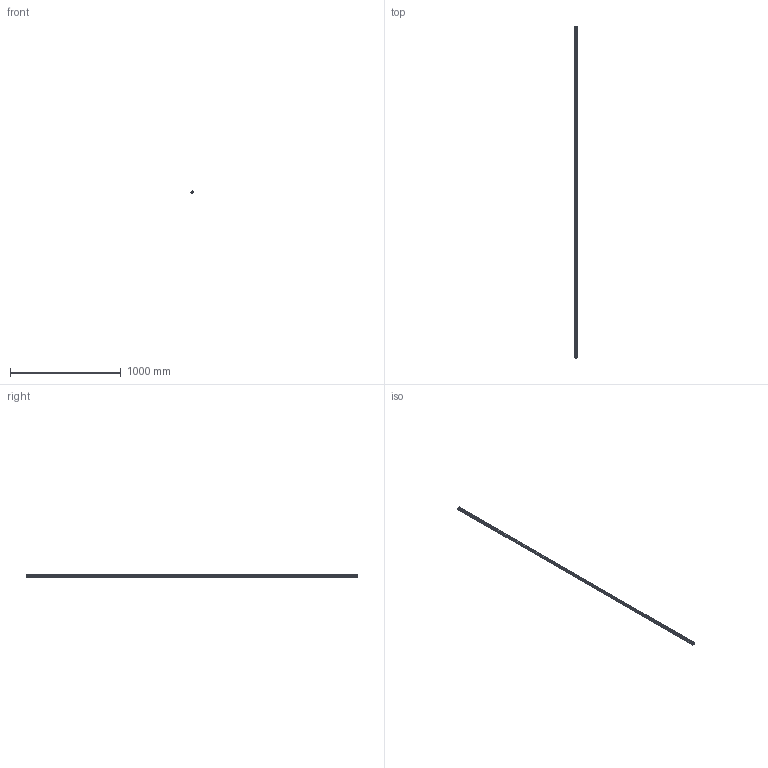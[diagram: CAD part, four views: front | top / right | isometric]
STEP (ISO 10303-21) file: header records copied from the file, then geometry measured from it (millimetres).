
FILE_DESCRIPTION (( 'STEP AP203' ), '1' );
FILE_NAME ('20201100_Profil 5 R20-90°.step', '2023-11-29T15:41:58', ( '' ), ( '' ), 'SwSTEP 2.0', 'SolidWorks 2021', '' );
FILE_SCHEMA (( 'CONFIG_CONTROL_DESIGN' ));
Length unit declared in the file: millimetre
Products named in the file (1): 20201100_Profil 5 R20-90°
Bounding box: 19.88 x 3000 x 19.89 mm (x, y, z)
Volume: 516146.4 mm3; surface area: 462059.9 mm2
Topology: 1 solids, 1 shells, 58 faces, 168 edges, 112 vertices
Faces by surface type: cylinder 34, plane 24
Entity records: 2029 total; most frequent: DIRECTION 354, CARTESIAN_POINT 339, ORIENTED_EDGE 336, EDGE_CURVE 168, AXIS2_PLACEMENT_3D 127, VERTEX_POINT 112, LINE 100, VECTOR 100
